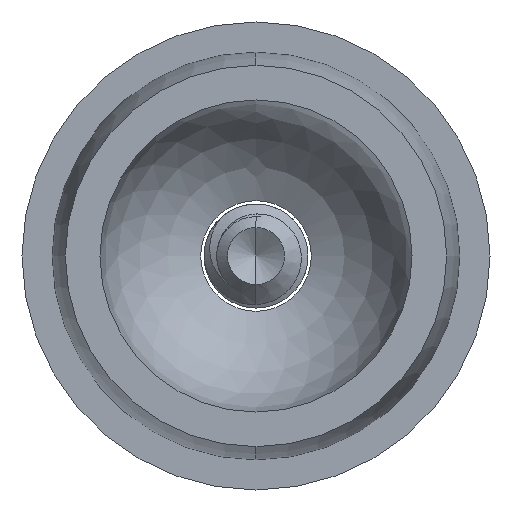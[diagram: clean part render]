
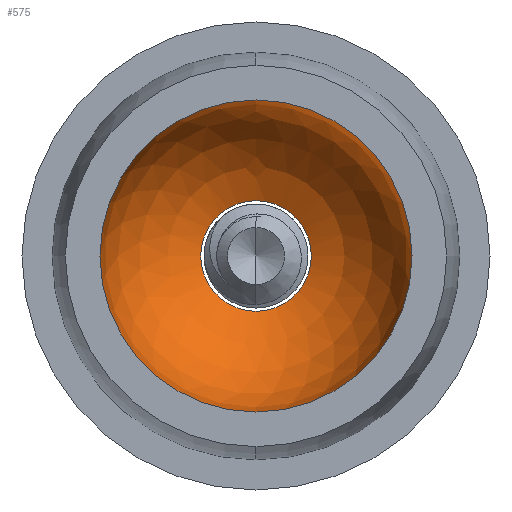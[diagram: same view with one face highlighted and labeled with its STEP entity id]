
A CAD part, left-side view. The second image highlights one B-rep face of the part: STEP entity #575.
In plain terms, the highlighted spherical face has radius 9.525 mm.
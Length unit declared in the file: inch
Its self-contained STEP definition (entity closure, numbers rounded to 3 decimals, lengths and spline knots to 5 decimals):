
#73 = EDGE_CURVE ( 'NONE', #1160, #499, #1733, .T. ) ;
#148 = CARTESIAN_POINT ( 'NONE',  ( -0.625, 0.375, 0. ) ) ;
#189 = DIRECTION ( 'NONE',  ( -1., 0., 0. ) ) ;
#499 = VERTEX_POINT ( 'NONE', #1939 ) ;
#527 = DIRECTION ( 'NONE',  ( 0., 0., -1. ) ) ;
#548 = EDGE_CURVE ( 'NONE', #2346, #2199, #1788, .T. ) ;
#575 = ADVANCED_FACE ( 'NONE', ( #4668, #3583 ), #1682, .F. ) ;
#627 = CARTESIAN_POINT ( 'NONE',  ( -0.625, 0., 0. ) ) ;
#713 = ORIENTED_EDGE ( 'NONE', *, *, #4090, .F. ) ;
#723 = ORIENTED_EDGE ( 'NONE', *, *, #73, .F. ) ;
#987 = DIRECTION ( 'NONE',  ( 0., 0., 1. ) ) ;
#1032 = EDGE_LOOP ( 'NONE', ( #2583, #4091 ) ) ;
#1160 = VERTEX_POINT ( 'NONE', #4126 ) ;
#1353 = CARTESIAN_POINT ( 'NONE',  ( -0.27438, 0., 0. ) ) ;
#1398 = EDGE_LOOP ( 'NONE', ( #723, #713 ) ) ;
#1587 = CARTESIAN_POINT ( 'NONE',  ( -0.625, 0., 0. ) ) ;
#1682 = SPHERICAL_SURFACE ( 'NONE', #3832, 0.375 ) ;
#1690 = CARTESIAN_POINT ( 'NONE',  ( -0.625, 0., 0. ) ) ;
#1713 = DIRECTION ( 'NONE',  ( 0., 0., -1. ) ) ;
#1733 = CIRCLE ( 'NONE', #3445, 0.133 ) ;
#1788 = CIRCLE ( 'NONE', #3581, 0.375 ) ;
#1939 = CARTESIAN_POINT ( 'NONE',  ( -0.27438, 0., 0.133 ) ) ;
#2054 = DIRECTION ( 'NONE',  ( 0., 1., 0. ) ) ;
#2199 = VERTEX_POINT ( 'NONE', #3696 ) ;
#2346 = VERTEX_POINT ( 'NONE', #148 ) ;
#2351 = CARTESIAN_POINT ( 'NONE',  ( -0.27438, 0., 0. ) ) ;
#2583 = ORIENTED_EDGE ( 'NONE', *, *, #548, .T. ) ;
#3025 = AXIS2_PLACEMENT_3D ( 'NONE', #1690, #4211, #2054 ) ;
#3126 = CIRCLE ( 'NONE', #3025, 0.375 ) ;
#3146 = DIRECTION ( 'NONE',  ( -1., 0., 0. ) ) ;
#3374 = DIRECTION ( 'NONE',  ( 0., 1., 0. ) ) ;
#3445 = AXIS2_PLACEMENT_3D ( 'NONE', #2351, #189, #527 ) ;
#3581 = AXIS2_PLACEMENT_3D ( 'NONE', #1587, #4106, #3374 ) ;
#3583 = FACE_BOUND ( 'NONE', #1398, .T. ) ;
#3696 = CARTESIAN_POINT ( 'NONE',  ( -0.625, -0.375, 0. ) ) ;
#3832 = AXIS2_PLACEMENT_3D ( 'NONE', #627, #3146, #987 ) ;
#3867 = DIRECTION ( 'NONE',  ( -1., 0., 0. ) ) ;
#3963 = CIRCLE ( 'NONE', #4482, 0.133 ) ;
#3987 = EDGE_CURVE ( 'NONE', #2199, #2346, #3126, .T. ) ;
#4090 = EDGE_CURVE ( 'NONE', #499, #1160, #3963, .T. ) ;
#4091 = ORIENTED_EDGE ( 'NONE', *, *, #3987, .T. ) ;
#4106 = DIRECTION ( 'NONE',  ( -1., 0., 0. ) ) ;
#4126 = CARTESIAN_POINT ( 'NONE',  ( -0.27438, 0., -0.133 ) ) ;
#4211 = DIRECTION ( 'NONE',  ( -1., 0., 0. ) ) ;
#4482 = AXIS2_PLACEMENT_3D ( 'NONE', #1353, #3867, #1713 ) ;
#4668 = FACE_OUTER_BOUND ( 'NONE', #1032, .T. ) ;
